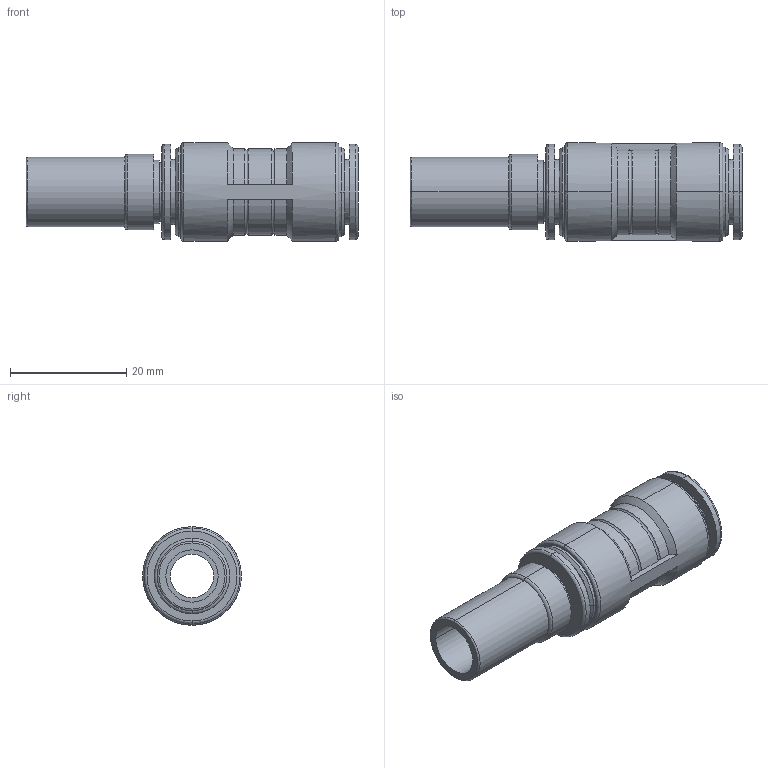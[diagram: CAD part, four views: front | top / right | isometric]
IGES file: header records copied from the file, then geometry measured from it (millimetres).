
Global section: file name: No Iges File Name specified; native system: AutoDesk Inventor R11.0; preprocessor: AutoDesk Inventor Iges Exporter R11.0; author: No Author specified; organization: No Organization specified; date: 20120321.163259; units: millimetre
Bounding box: 57.2 x 17 x 17 mm (x, y, z)
Volume: 6107.9 mm3; surface area: 5109.1 mm2
Topology: 1 solids, 1 shells, 78 faces, 175 edges, 111 vertices
Faces by surface type: bspline 30, cylinder 20, plane 12, torus 8, cone 4, revolution 4
